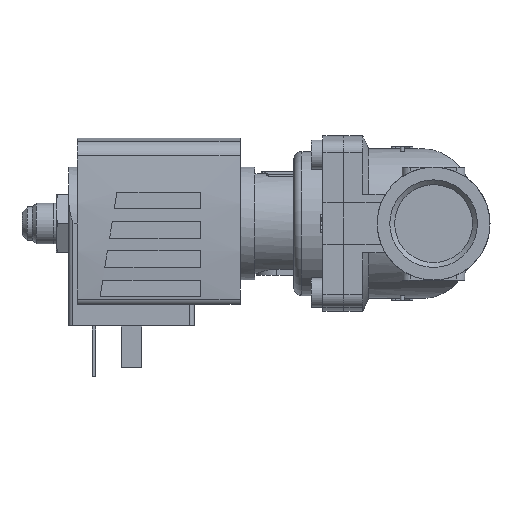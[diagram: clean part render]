
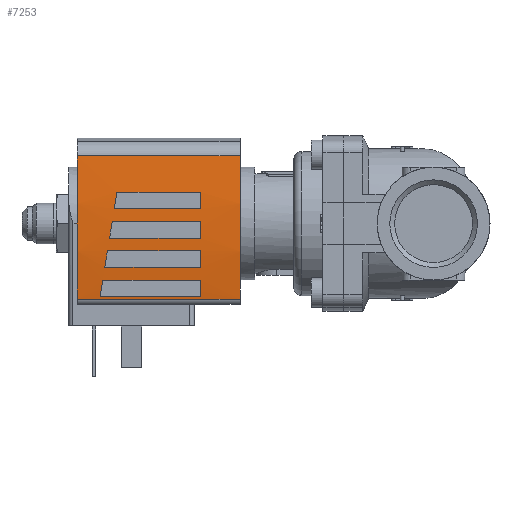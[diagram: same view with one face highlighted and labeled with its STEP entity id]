
A CAD part, left-side view. The second image highlights one B-rep face of the part: STEP entity #7253.
In plain terms, the highlighted cylindrical face has radius 130 mm (diameter 260 mm), a partial arc.
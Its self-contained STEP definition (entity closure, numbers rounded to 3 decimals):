
#90=ELLIPSE('',#7845,131.653,130.);
#91=ELLIPSE('',#7847,131.653,130.);
#92=ELLIPSE('',#7850,131.653,130.);
#93=ELLIPSE('',#7852,131.653,130.);
#246=CYLINDRICAL_SURFACE('',#7844,130.);
#660=LINE('',#11344,#1182);
#662=LINE('',#11364,#1184);
#663=LINE('',#11368,#1185);
#664=LINE('',#11369,#1186);
#665=LINE('',#11374,#1187);
#666=LINE('',#11379,#1188);
#667=LINE('',#11383,#1189);
#668=LINE('',#11387,#1190);
#669=LINE('',#11391,#1191);
#670=LINE('',#11395,#1192);
#1182=VECTOR('',#9328,1000.);
#1184=VECTOR('',#9350,1000.);
#1185=VECTOR('',#9353,1000.);
#1186=VECTOR('',#9354,1000.);
#1187=VECTOR('',#9357,1000.);
#1188=VECTOR('',#9362,1000.);
#1189=VECTOR('',#9365,1000.);
#1190=VECTOR('',#9368,1000.);
#1191=VECTOR('',#9371,1000.);
#1192=VECTOR('',#9374,1000.);
#2622=ORIENTED_EDGE('',*,*,#3701,.F.);
#2623=ORIENTED_EDGE('',*,*,#3702,.F.);
#2624=ORIENTED_EDGE('',*,*,#3703,.F.);
#2625=ORIENTED_EDGE('',*,*,#3704,.F.);
#2626=ORIENTED_EDGE('',*,*,#3705,.F.);
#2627=ORIENTED_EDGE('',*,*,#3706,.F.);
#2628=ORIENTED_EDGE('',*,*,#3707,.F.);
#2629=ORIENTED_EDGE('',*,*,#3708,.F.);
#2630=ORIENTED_EDGE('',*,*,#3709,.T.);
#2631=ORIENTED_EDGE('',*,*,#3710,.F.);
#2632=ORIENTED_EDGE('',*,*,#3695,.F.);
#2633=ORIENTED_EDGE('',*,*,#3692,.T.);
#2634=ORIENTED_EDGE('',*,*,#3711,.F.);
#2635=ORIENTED_EDGE('',*,*,#3712,.F.);
#2636=ORIENTED_EDGE('',*,*,#3713,.F.);
#2637=ORIENTED_EDGE('',*,*,#3714,.F.);
#2638=ORIENTED_EDGE('',*,*,#3715,.F.);
#2639=ORIENTED_EDGE('',*,*,#3716,.F.);
#2640=ORIENTED_EDGE('',*,*,#3717,.F.);
#2641=ORIENTED_EDGE('',*,*,#3718,.F.);
#3692=EDGE_CURVE('',#4335,#4334,#660,.T.);
#3695=EDGE_CURVE('',#4335,#4337,#4632,.T.);
#3701=EDGE_CURVE('',#4341,#4342,#90,.T.);
#3702=EDGE_CURVE('',#4343,#4341,#662,.F.);
#3703=EDGE_CURVE('',#4344,#4343,#4637,.T.);
#3704=EDGE_CURVE('',#4342,#4344,#663,.T.);
#3705=EDGE_CURVE('',#4345,#4346,#664,.T.);
#3706=EDGE_CURVE('',#4347,#4345,#91,.T.);
#3707=EDGE_CURVE('',#4348,#4347,#665,.F.);
#3708=EDGE_CURVE('',#4346,#4348,#4638,.T.);
#3709=EDGE_CURVE('',#4334,#4349,#4639,.T.);
#3710=EDGE_CURVE('',#4337,#4349,#666,.T.);
#3711=EDGE_CURVE('',#4350,#4351,#92,.T.);
#3712=EDGE_CURVE('',#4352,#4350,#667,.F.);
#3713=EDGE_CURVE('',#4353,#4352,#4640,.T.);
#3714=EDGE_CURVE('',#4351,#4353,#668,.T.);
#3715=EDGE_CURVE('',#4354,#4355,#93,.T.);
#3716=EDGE_CURVE('',#4356,#4354,#669,.F.);
#3717=EDGE_CURVE('',#4357,#4356,#4641,.T.);
#3718=EDGE_CURVE('',#4355,#4357,#670,.T.);
#4334=VERTEX_POINT('',#11343);
#4335=VERTEX_POINT('',#11345);
#4337=VERTEX_POINT('',#11351);
#4341=VERTEX_POINT('',#11362);
#4342=VERTEX_POINT('',#11363);
#4343=VERTEX_POINT('',#11365);
#4344=VERTEX_POINT('',#11367);
#4345=VERTEX_POINT('',#11370);
#4346=VERTEX_POINT('',#11371);
#4347=VERTEX_POINT('',#11373);
#4348=VERTEX_POINT('',#11375);
#4349=VERTEX_POINT('',#11378);
#4350=VERTEX_POINT('',#11381);
#4351=VERTEX_POINT('',#11382);
#4352=VERTEX_POINT('',#11384);
#4353=VERTEX_POINT('',#11386);
#4354=VERTEX_POINT('',#11389);
#4355=VERTEX_POINT('',#11390);
#4356=VERTEX_POINT('',#11392);
#4357=VERTEX_POINT('',#11394);
#4632=CIRCLE('',#7839,130.);
#4637=CIRCLE('',#7846,130.);
#4638=CIRCLE('',#7848,130.);
#4639=CIRCLE('',#7849,130.);
#4640=CIRCLE('',#7851,130.);
#4641=CIRCLE('',#7853,130.);
#4960=EDGE_LOOP('',(#2622,#2623,#2624,#2625));
#4961=EDGE_LOOP('',(#2626,#2627,#2628,#2629));
#4962=EDGE_LOOP('',(#2630,#2631,#2632,#2633));
#4963=EDGE_LOOP('',(#2634,#2635,#2636,#2637));
#4964=EDGE_LOOP('',(#2638,#2639,#2640,#2641));
#5364=FACE_BOUND('',#4960,.T.);
#5365=FACE_BOUND('',#4961,.T.);
#5366=FACE_BOUND('',#4962,.T.);
#5367=FACE_BOUND('',#4963,.T.);
#5368=FACE_BOUND('',#4964,.T.);
#7253=ADVANCED_FACE('',(#5364,#5365,#5366,#5367,#5368),#246,.T.);
#7839=AXIS2_PLACEMENT_3D('',#11350,#9335,#9336);
#7844=AXIS2_PLACEMENT_3D('',#11360,#9346,#9347);
#7845=AXIS2_PLACEMENT_3D('',#11361,#9348,#9349);
#7846=AXIS2_PLACEMENT_3D('',#11366,#9351,#9352);
#7847=AXIS2_PLACEMENT_3D('',#11372,#9355,#9356);
#7848=AXIS2_PLACEMENT_3D('',#11376,#9358,#9359);
#7849=AXIS2_PLACEMENT_3D('',#11377,#9360,#9361);
#7850=AXIS2_PLACEMENT_3D('',#11380,#9363,#9364);
#7851=AXIS2_PLACEMENT_3D('',#11385,#9366,#9367);
#7852=AXIS2_PLACEMENT_3D('',#11388,#9369,#9370);
#7853=AXIS2_PLACEMENT_3D('',#11393,#9372,#9373);
#9328=DIRECTION('',(0.,-1.,0.));
#9335=DIRECTION('',(0.,1.,0.));
#9336=DIRECTION('',(1.,0.,0.));
#9346=DIRECTION('',(0.,-1.,0.));
#9347=DIRECTION('',(0.,0.,-1.));
#9348=DIRECTION('',(-0.158,-0.987,0.));
#9349=DIRECTION('',(0.987,-0.158,0.));
#9350=DIRECTION('',(0.,-1.,0.));
#9351=DIRECTION('',(0.,1.,0.));
#9352=DIRECTION('',(0.,0.,1.));
#9353=DIRECTION('',(0.,-1.,0.));
#9354=DIRECTION('',(0.,-1.,0.));
#9355=DIRECTION('',(-0.158,-0.987,0.));
#9356=DIRECTION('',(0.987,-0.158,0.));
#9357=DIRECTION('',(0.,-1.,0.));
#9358=DIRECTION('',(0.,1.,0.));
#9359=DIRECTION('',(0.,0.,1.));
#9360=DIRECTION('',(0.,1.,0.));
#9361=DIRECTION('',(1.,0.,0.));
#9362=DIRECTION('',(0.,-1.,0.));
#9363=DIRECTION('',(-0.158,-0.987,0.));
#9364=DIRECTION('',(0.987,-0.158,0.));
#9365=DIRECTION('',(0.,-1.,0.));
#9366=DIRECTION('',(0.,1.,0.));
#9367=DIRECTION('',(0.,0.,1.));
#9368=DIRECTION('',(0.,-1.,0.));
#9369=DIRECTION('',(-0.158,-0.987,0.));
#9370=DIRECTION('',(0.987,-0.158,0.));
#9371=DIRECTION('',(0.,-1.,0.));
#9372=DIRECTION('',(0.,1.,0.));
#9373=DIRECTION('',(0.,0.,1.));
#9374=DIRECTION('',(0.,-1.,0.));
#11343=CARTESIAN_POINT('',(-18.071,-26.,14.738));
#11344=CARTESIAN_POINT('',(-18.071,13.,14.738));
#11345=CARTESIAN_POINT('',(-18.071,13.,14.738));
#11350=CARTESIAN_POINT('',(0.,13.,-114.));
#11351=CARTESIAN_POINT('',(16.195,13.,14.987));
#11360=CARTESIAN_POINT('',(0.,13.,-114.));
#11361=CARTESIAN_POINT('',(0.,4.7,-114.));
#11362=CARTESIAN_POINT('',(0.5,4.62,15.999));
#11363=CARTESIAN_POINT('',(-3.5,5.26,15.953));
#11364=CARTESIAN_POINT('',(0.5,13.,15.999));
#11365=CARTESIAN_POINT('',(0.5,-16.5,15.999));
#11366=CARTESIAN_POINT('',(0.,-16.5,-114.));
#11367=CARTESIAN_POINT('',(-3.5,-16.5,15.953));
#11368=CARTESIAN_POINT('',(-3.5,13.,15.953));
#11369=CARTESIAN_POINT('',(-17.5,13.,14.817));
#11370=CARTESIAN_POINT('',(-17.5,7.5,14.817));
#11371=CARTESIAN_POINT('',(-17.5,-16.5,14.817));
#11372=CARTESIAN_POINT('',(0.,4.7,-114.));
#11373=CARTESIAN_POINT('',(-13.5,6.86,15.297));
#11374=CARTESIAN_POINT('',(-13.5,13.,15.297));
#11375=CARTESIAN_POINT('',(-13.5,-16.5,15.297));
#11376=CARTESIAN_POINT('',(0.,-16.5,-114.));
#11377=CARTESIAN_POINT('',(0.,-26.,-114.));
#11378=CARTESIAN_POINT('',(16.195,-26.,14.987));
#11379=CARTESIAN_POINT('',(16.195,13.,14.987));
#11380=CARTESIAN_POINT('',(0.,4.7,-114.));
#11381=CARTESIAN_POINT('',(-6.5,5.74,15.837));
#11382=CARTESIAN_POINT('',(-10.5,6.38,15.575));
#11383=CARTESIAN_POINT('',(-6.5,13.,15.837));
#11384=CARTESIAN_POINT('',(-6.5,-16.5,15.837));
#11385=CARTESIAN_POINT('',(0.,-16.5,-114.));
#11386=CARTESIAN_POINT('',(-10.5,-16.5,15.575));
#11387=CARTESIAN_POINT('',(-10.5,13.,15.575));
#11388=CARTESIAN_POINT('',(0.,4.7,-114.));
#11389=CARTESIAN_POINT('',(7.5,3.5,15.783));
#11390=CARTESIAN_POINT('',(3.5,4.14,15.953));
#11391=CARTESIAN_POINT('',(7.5,13.,15.783));
#11392=CARTESIAN_POINT('',(7.5,-16.5,15.783));
#11393=CARTESIAN_POINT('',(0.,-16.5,-114.));
#11394=CARTESIAN_POINT('',(3.5,-16.5,15.953));
#11395=CARTESIAN_POINT('',(3.5,13.,15.953));
